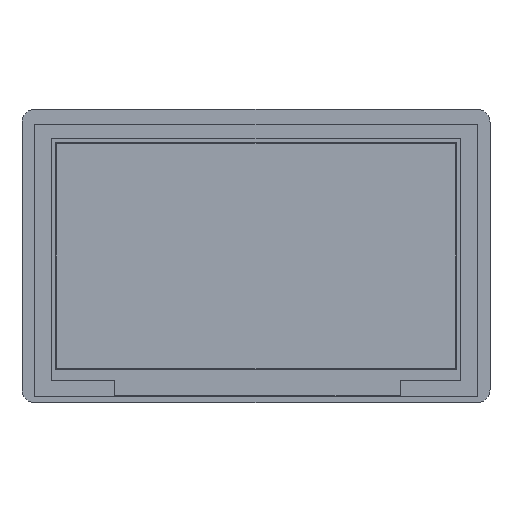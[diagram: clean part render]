
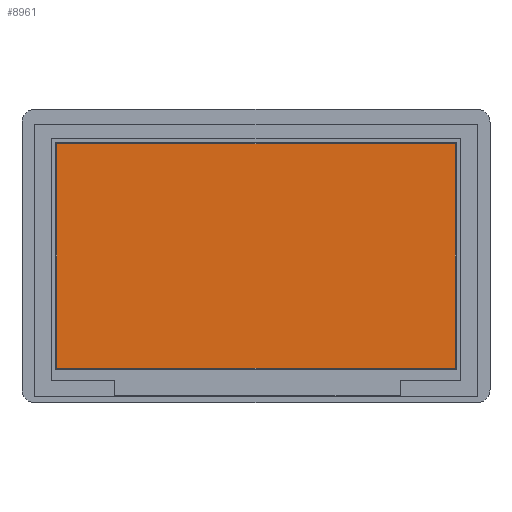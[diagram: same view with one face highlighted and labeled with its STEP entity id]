
A CAD part, top view. The second image highlights one B-rep face of the part: STEP entity #8961.
In plain terms, the highlighted planar face has unit normal (0, 0, 1).
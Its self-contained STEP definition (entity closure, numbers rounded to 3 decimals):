
#68=DIRECTION('',(-1.,0.,0.));
#69=VECTOR('',#68,309.31);
#70=CARTESIAN_POINT('',(154.655,86.995,-0.1));
#71=LINE('',#70,#69);
#72=DIRECTION('',(0.,1.,0.));
#73=VECTOR('',#72,173.99);
#74=CARTESIAN_POINT('',(154.655,-86.995,-0.1));
#75=LINE('',#74,#73);
#76=DIRECTION('',(1.,0.,0.));
#77=VECTOR('',#76,309.31);
#78=CARTESIAN_POINT('',(-154.655,-86.995,-0.1));
#79=LINE('',#78,#77);
#80=DIRECTION('',(0.,-1.,0.));
#81=VECTOR('',#80,173.99);
#82=CARTESIAN_POINT('',(-154.655,86.995,-0.1));
#83=LINE('',#82,#81);
#6778=CARTESIAN_POINT('',(154.655,86.995,-0.1));
#6779=CARTESIAN_POINT('',(-154.655,86.995,-0.1));
#6780=VERTEX_POINT('',#6778);
#6781=VERTEX_POINT('',#6779);
#6782=CARTESIAN_POINT('',(-154.655,-86.995,-0.1));
#6783=VERTEX_POINT('',#6782);
#6784=CARTESIAN_POINT('',(154.655,-86.995,-0.1));
#6785=VERTEX_POINT('',#6784);
#8950=CARTESIAN_POINT('',(0.,0.,-0.1));
#8951=DIRECTION('',(0.,0.,1.));
#8952=DIRECTION('',(1.,0.,0.));
#8953=AXIS2_PLACEMENT_3D('',#8950,#8951,#8952);
#8954=PLANE('',#8953);
#8955=ORIENTED_EDGE('',*,*,#8902,.F.);
#8956=ORIENTED_EDGE('',*,*,#8917,.F.);
#8957=ORIENTED_EDGE('',*,*,#8931,.F.);
#8958=ORIENTED_EDGE('',*,*,#8944,.F.);
#8959=EDGE_LOOP('',(#8955,#8956,#8957,#8958));
#8960=FACE_OUTER_BOUND('',#8959,.F.);
#8902=EDGE_CURVE('',#6780,#6781,#71,.T.);
#8917=EDGE_CURVE('',#6785,#6780,#75,.T.);
#8931=EDGE_CURVE('',#6783,#6785,#79,.T.);
#8944=EDGE_CURVE('',#6781,#6783,#83,.T.);
#8961=ADVANCED_FACE('',(#8960),#8954,.T.);
